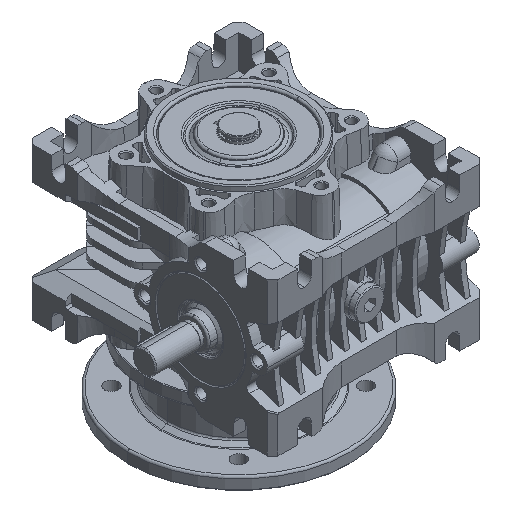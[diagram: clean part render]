
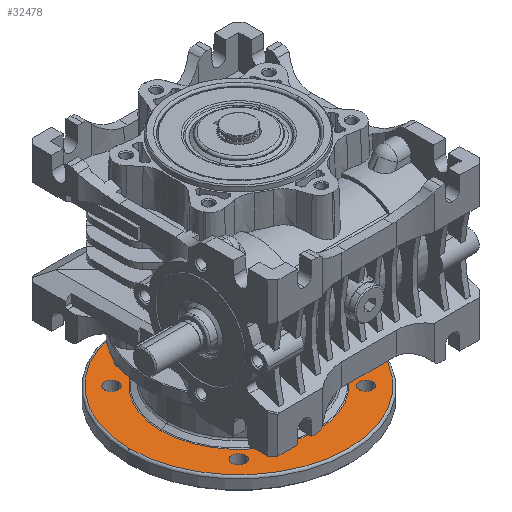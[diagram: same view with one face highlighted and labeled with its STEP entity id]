
A CAD part, isometric view. The second image highlights one B-rep face of the part: STEP entity #32478.
In plain terms, the highlighted planar face has unit normal (0, 0, 1).
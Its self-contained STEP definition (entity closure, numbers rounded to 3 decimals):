
#190 = VERTEX_POINT ( 'NONE', #37328 ) ;
#295 = DIRECTION ( 'NONE',  ( 0., 0., -1. ) ) ;
#826 = EDGE_CURVE ( 'NONE', #26090, #190, #23661, .T. ) ;
#1069 = VERTEX_POINT ( 'NONE', #37348 ) ;
#1810 = DIRECTION ( 'NONE',  ( 0., 0., -1. ) ) ;
#2217 = AXIS2_PLACEMENT_3D ( 'NONE', #45374, #12286, #24175 ) ;
#2686 = EDGE_CURVE ( 'NONE', #10042, #51339, #25571, .T. ) ;
#4342 = AXIS2_PLACEMENT_3D ( 'NONE', #34597, #47637, #38968 ) ;
#4475 = DIRECTION ( 'NONE',  ( 0., 0., -1. ) ) ;
#4522 = CARTESIAN_POINT ( 'NONE',  ( -33.302, 30.052, -64. ) ) ;
#4822 = VERTEX_POINT ( 'NONE', #4522 ) ;
#4988 = DIRECTION ( 'NONE',  ( 0., -1., 0. ) ) ;
#5269 = CIRCLE ( 'NONE', #28630, 3.25 ) ;
#5368 = EDGE_LOOP ( 'NONE', ( #42157, #13043 ) ) ;
#5951 = CIRCLE ( 'NONE', #45806, 3.25 ) ;
#6020 = EDGE_CURVE ( 'NONE', #38590, #51728, #45960, .T. ) ;
#7169 = EDGE_CURVE ( 'NONE', #190, #26090, #47693, .T. ) ;
#7357 = DIRECTION ( 'NONE',  ( -1., 0., 0. ) ) ;
#7459 = DIRECTION ( 'NONE',  ( 0., 0., 1. ) ) ;
#7463 = ORIENTED_EDGE ( 'NONE', *, *, #45829, .T. ) ;
#8669 = CIRCLE ( 'NONE', #22481, 3.25 ) ;
#8962 = CARTESIAN_POINT ( 'NONE',  ( -26.802, -30.052, -64. ) ) ;
#9160 = EDGE_LOOP ( 'NONE', ( #31594, #10524 ) ) ;
#9480 = CARTESIAN_POINT ( 'NONE',  ( 30.052, 30.052, -64. ) ) ;
#10042 = VERTEX_POINT ( 'NONE', #13090 ) ;
#10524 = ORIENTED_EDGE ( 'NONE', *, *, #2686, .T. ) ;
#10568 = ORIENTED_EDGE ( 'NONE', *, *, #826, .T. ) ;
#11432 = ORIENTED_EDGE ( 'NONE', *, *, #7169, .T. ) ;
#11887 = EDGE_CURVE ( 'NONE', #31420, #4822, #34828, .T. ) ;
#12115 = CIRCLE ( 'NONE', #4342, 3.25 ) ;
#12286 = DIRECTION ( 'NONE',  ( 0., 0., -1. ) ) ;
#12392 = CARTESIAN_POINT ( 'NONE',  ( 36.768, 0., -64. ) ) ;
#13028 = AXIS2_PLACEMENT_3D ( 'NONE', #24253, #7459, #16382 ) ;
#13043 = ORIENTED_EDGE ( 'NONE', *, *, #41576, .T. ) ;
#13090 = CARTESIAN_POINT ( 'NONE',  ( 33.302, -30.052, -64. ) ) ;
#13565 = ORIENTED_EDGE ( 'NONE', *, *, #39328, .T. ) ;
#13620 = VERTEX_POINT ( 'NONE', #48984 ) ;
#13897 = FACE_BOUND ( 'NONE', #40592, .T. ) ;
#13977 = AXIS2_PLACEMENT_3D ( 'NONE', #17946, #34505, #4988 ) ;
#14835 = CARTESIAN_POINT ( 'NONE',  ( -36.768, 0., -64. ) ) ;
#16107 = CARTESIAN_POINT ( 'NONE',  ( -30.052, -30.052, -64. ) ) ;
#16382 = DIRECTION ( 'NONE',  ( -1., 0., 0. ) ) ;
#17149 = FACE_BOUND ( 'NONE', #9160, .T. ) ;
#17689 = FACE_BOUND ( 'NONE', #5368, .T. ) ;
#17946 = CARTESIAN_POINT ( 'NONE',  ( 0., 33.5, -64. ) ) ;
#19540 = VERTEX_POINT ( 'NONE', #12392 ) ;
#20368 = DIRECTION ( 'NONE',  ( 0., 0., -1. ) ) ;
#21241 = DIRECTION ( 'NONE',  ( -1., 0., 0. ) ) ;
#22378 = DIRECTION ( 'NONE',  ( -1., 0., 0. ) ) ;
#22466 = ORIENTED_EDGE ( 'NONE', *, *, #6020, .T. ) ;
#22481 = AXIS2_PLACEMENT_3D ( 'NONE', #9480, #295, #37437 ) ;
#22525 = AXIS2_PLACEMENT_3D ( 'NONE', #16107, #4475, #21241 ) ;
#23651 = EDGE_CURVE ( 'NONE', #1069, #13620, #5269, .T. ) ;
#23661 = CIRCLE ( 'NONE', #30623, 51.5 ) ;
#24175 = DIRECTION ( 'NONE',  ( -1., 0., 0. ) ) ;
#24253 = CARTESIAN_POINT ( 'NONE',  ( 0., 0., -64. ) ) ;
#25074 = ORIENTED_EDGE ( 'NONE', *, *, #39965, .T. ) ;
#25298 = PLANE ( 'NONE',  #13977 ) ;
#25571 = CIRCLE ( 'NONE', #2217, 3.25 ) ;
#26090 = VERTEX_POINT ( 'NONE', #49064 ) ;
#26369 = FACE_OUTER_BOUND ( 'NONE', #34455, .T. ) ;
#27489 = AXIS2_PLACEMENT_3D ( 'NONE', #38743, #51763, #47150 ) ;
#28436 = CARTESIAN_POINT ( 'NONE',  ( -30.052, 30.052, -64. ) ) ;
#28446 = CARTESIAN_POINT ( 'NONE',  ( 26.802, -30.052, -64. ) ) ;
#28611 = DIRECTION ( 'NONE',  ( -1., 0., 0. ) ) ;
#28630 = AXIS2_PLACEMENT_3D ( 'NONE', #31346, #1810, #22378 ) ;
#29040 = VERTEX_POINT ( 'NONE', #14835 ) ;
#30490 = AXIS2_PLACEMENT_3D ( 'NONE', #28436, #48560, #45558 ) ;
#30623 = AXIS2_PLACEMENT_3D ( 'NONE', #40995, #48620, #7357 ) ;
#31346 = CARTESIAN_POINT ( 'NONE',  ( 30.052, 30.052, -64. ) ) ;
#31420 = VERTEX_POINT ( 'NONE', #38796 ) ;
#31594 = ORIENTED_EDGE ( 'NONE', *, *, #40866, .T. ) ;
#31772 = CARTESIAN_POINT ( 'NONE',  ( 0., 0., -64. ) ) ;
#32478 = ADVANCED_FACE ( 'NONE', ( #26369, #17149, #13897, #42931, #17689, #33706 ), #25298, .F. ) ;
#32681 = CARTESIAN_POINT ( 'NONE',  ( 0., 0., -64. ) ) ;
#33388 = CARTESIAN_POINT ( 'NONE',  ( -30.052, 30.052, -64. ) ) ;
#33706 = FACE_BOUND ( 'NONE', #45884, .T. ) ;
#34455 = EDGE_LOOP ( 'NONE', ( #10568, #11432 ) ) ;
#34505 = DIRECTION ( 'NONE',  ( 0., 0., -1. ) ) ;
#34597 = CARTESIAN_POINT ( 'NONE',  ( 30.052, -30.052, -64. ) ) ;
#34828 = CIRCLE ( 'NONE', #30490, 3.25 ) ;
#36553 = CARTESIAN_POINT ( 'NONE',  ( -33.302, -30.052, -64. ) ) ;
#36939 = DIRECTION ( 'NONE',  ( -1., 0., 0. ) ) ;
#37328 = CARTESIAN_POINT ( 'NONE',  ( 51.5, 0., -64. ) ) ;
#37348 = CARTESIAN_POINT ( 'NONE',  ( 26.802, 30.052, -64. ) ) ;
#37437 = DIRECTION ( 'NONE',  ( -1., 0., 0. ) ) ;
#38590 = VERTEX_POINT ( 'NONE', #8962 ) ;
#38743 = CARTESIAN_POINT ( 'NONE',  ( -30.052, -30.052, -64. ) ) ;
#38796 = CARTESIAN_POINT ( 'NONE',  ( -26.802, 30.052, -64. ) ) ;
#38915 = EDGE_CURVE ( 'NONE', #19540, #29040, #39647, .T. ) ;
#38968 = DIRECTION ( 'NONE',  ( -1., 0., 0. ) ) ;
#39328 = EDGE_CURVE ( 'NONE', #51728, #38590, #44871, .T. ) ;
#39647 = CIRCLE ( 'NONE', #44837, 36.768 ) ;
#39965 = EDGE_CURVE ( 'NONE', #4822, #31420, #5951, .T. ) ;
#40592 = EDGE_LOOP ( 'NONE', ( #13565, #22466 ) ) ;
#40866 = EDGE_CURVE ( 'NONE', #51339, #10042, #12115, .T. ) ;
#40868 = ORIENTED_EDGE ( 'NONE', *, *, #11887, .T. ) ;
#40995 = CARTESIAN_POINT ( 'NONE',  ( 0., 0., -64. ) ) ;
#41576 = EDGE_CURVE ( 'NONE', #13620, #1069, #8669, .T. ) ;
#42157 = ORIENTED_EDGE ( 'NONE', *, *, #23651, .T. ) ;
#42343 = DIRECTION ( 'NONE',  ( 0., 0., -1. ) ) ;
#42931 = FACE_BOUND ( 'NONE', #43957, .T. ) ;
#43957 = EDGE_LOOP ( 'NONE', ( #25074, #40868 ) ) ;
#44136 = AXIS2_PLACEMENT_3D ( 'NONE', #32681, #49260, #28611 ) ;
#44837 = AXIS2_PLACEMENT_3D ( 'NONE', #31772, #20368, #36939 ) ;
#44871 = CIRCLE ( 'NONE', #27489, 3.25 ) ;
#45374 = CARTESIAN_POINT ( 'NONE',  ( 30.052, -30.052, -64. ) ) ;
#45558 = DIRECTION ( 'NONE',  ( -1., 0., 0. ) ) ;
#45806 = AXIS2_PLACEMENT_3D ( 'NONE', #33388, #42343, #46957 ) ;
#45829 = EDGE_CURVE ( 'NONE', #29040, #19540, #46731, .T. ) ;
#45884 = EDGE_LOOP ( 'NONE', ( #7463, #52621 ) ) ;
#45960 = CIRCLE ( 'NONE', #22525, 3.25 ) ;
#46731 = CIRCLE ( 'NONE', #44136, 36.768 ) ;
#46957 = DIRECTION ( 'NONE',  ( -1., 0., 0. ) ) ;
#47150 = DIRECTION ( 'NONE',  ( -1., 0., 0. ) ) ;
#47637 = DIRECTION ( 'NONE',  ( 0., 0., -1. ) ) ;
#47693 = CIRCLE ( 'NONE', #13028, 51.5 ) ;
#48560 = DIRECTION ( 'NONE',  ( 0., 0., -1. ) ) ;
#48620 = DIRECTION ( 'NONE',  ( 0., 0., 1. ) ) ;
#48984 = CARTESIAN_POINT ( 'NONE',  ( 33.302, 30.052, -64. ) ) ;
#49064 = CARTESIAN_POINT ( 'NONE',  ( -51.5, 0., -64. ) ) ;
#49260 = DIRECTION ( 'NONE',  ( 0., 0., -1. ) ) ;
#51339 = VERTEX_POINT ( 'NONE', #28446 ) ;
#51728 = VERTEX_POINT ( 'NONE', #36553 ) ;
#51763 = DIRECTION ( 'NONE',  ( 0., 0., -1. ) ) ;
#52621 = ORIENTED_EDGE ( 'NONE', *, *, #38915, .T. ) ;
